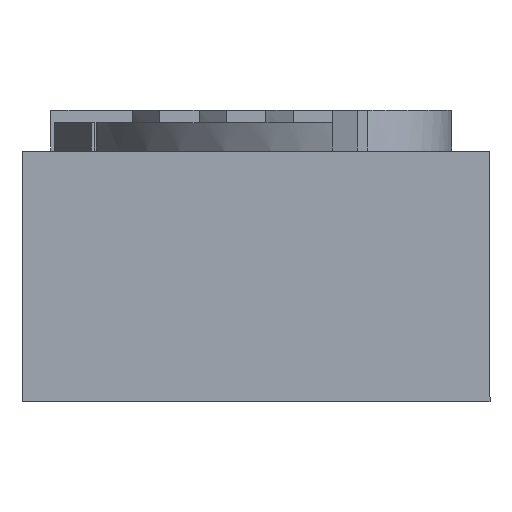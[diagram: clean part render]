
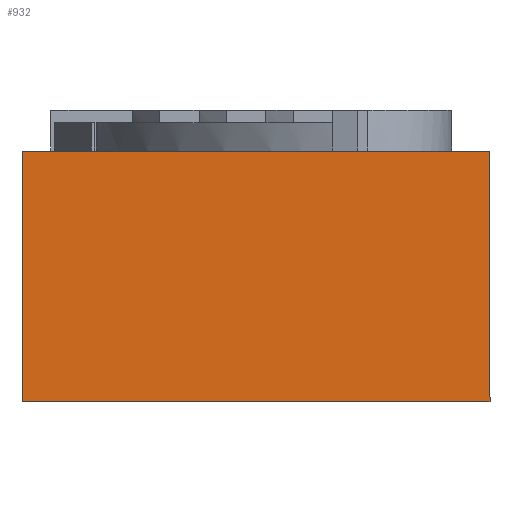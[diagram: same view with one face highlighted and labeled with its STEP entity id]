
A CAD part, left-side view. The second image highlights one B-rep face of the part: STEP entity #932.
In plain terms, the highlighted planar face has unit normal (-1, 0, 0).
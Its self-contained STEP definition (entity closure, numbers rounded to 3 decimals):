
#81=PLANE('',#1011);
#132=FACE_OUTER_BOUND('',#189,.T.);
#189=EDGE_LOOP('',(#866,#867,#868,#869));
#298=LINE('',#1569,#397);
#306=LINE('',#1599,#405);
#307=LINE('',#1602,#406);
#308=LINE('',#1603,#407);
#397=VECTOR('',#1199,10.);
#405=VECTOR('',#1215,10.);
#406=VECTOR('',#1218,10.);
#407=VECTOR('',#1219,10.);
#485=VERTEX_POINT('',#1563);
#487=VERTEX_POINT('',#1567);
#492=VERTEX_POINT('',#1597);
#493=VERTEX_POINT('',#1601);
#608=EDGE_CURVE('',#485,#487,#298,.F.);
#618=EDGE_CURVE('',#487,#492,#306,.T.);
#619=EDGE_CURVE('',#493,#492,#307,.T.);
#620=EDGE_CURVE('',#485,#493,#308,.T.);
#866=ORIENTED_EDGE('',*,*,#608,.T.);
#867=ORIENTED_EDGE('',*,*,#618,.T.);
#868=ORIENTED_EDGE('',*,*,#619,.F.);
#869=ORIENTED_EDGE('',*,*,#620,.F.);
#932=ADVANCED_FACE('',(#132),#81,.T.);
#1011=AXIS2_PLACEMENT_3D('',#1600,#1216,#1217);
#1199=DIRECTION('',(0.,0.,1.));
#1215=DIRECTION('',(0.,-1.,0.));
#1216=DIRECTION('center_axis',(-1.,0.,0.));
#1217=DIRECTION('ref_axis',(0.,0.,-1.));
#1218=DIRECTION('',(0.,0.,-1.));
#1219=DIRECTION('',(0.,-1.,0.));
#1563=CARTESIAN_POINT('',(-63.5,-3.,30.48));
#1567=CARTESIAN_POINT('',(-63.5,-3.,-45.72));
#1569=CARTESIAN_POINT('',(-63.5,-3.,11.43));
#1597=CARTESIAN_POINT('',(-63.5,-43.8,-45.72));
#1599=CARTESIAN_POINT('',(-63.5,7.,-45.72));
#1600=CARTESIAN_POINT('Origin',(-63.5,7.,30.48));
#1601=CARTESIAN_POINT('',(-63.5,-43.8,30.48));
#1602=CARTESIAN_POINT('',(-63.5,-43.8,30.48));
#1603=CARTESIAN_POINT('',(-63.5,7.,30.48));
